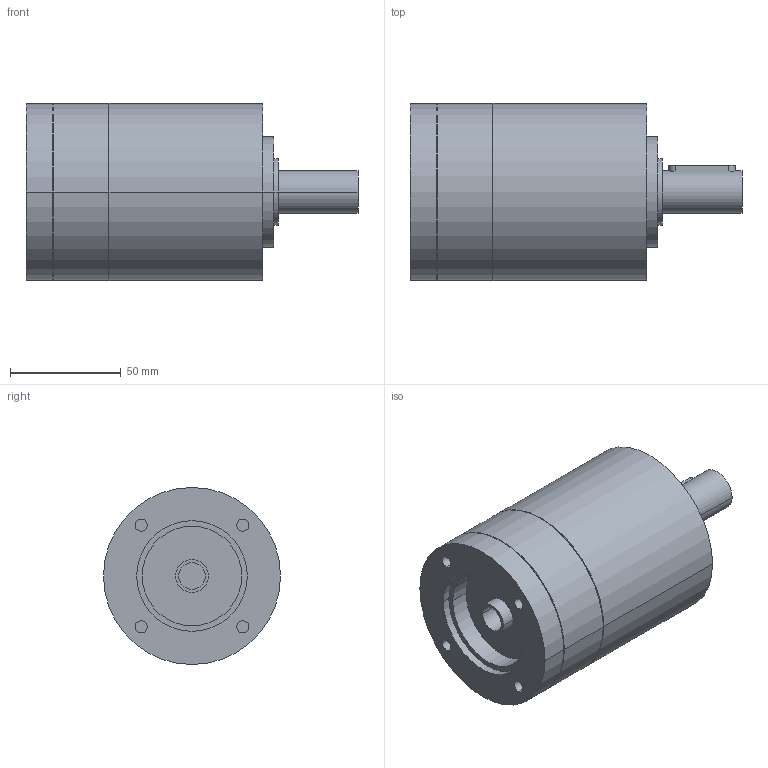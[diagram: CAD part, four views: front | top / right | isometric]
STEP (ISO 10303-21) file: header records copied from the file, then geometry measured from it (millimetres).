
FILE_DESCRIPTION(('CoCreate Modeling STEP Export'),'2;1');
FILE_NAME('GPR100_ig-3-4-5-6_19_B14_12.7_P10.stp','2014-08-26T10:06:51',(''),(''),'CoCreate Modeling STEP processor for AP214 (Solid Model)','CoCreate Modeling 16.00C 25-Feb-2009 (C) Parametric Technology GmbH','');
FILE_SCHEMA(('AUTOMOTIVE_DESIGN { 1 0 10303 214 1 1 1 1 }'));
Length unit declared in the file: millimetre
Products named in the file (2): GPR100_ig-3-4-5-6_19_B14_12.7_P10
Assembly tree (1 placements, depth 2):
  GPR100_ig-3-4-5-6_19_B14_12.7_P10
    GPR100_ig-3-4-5-6_19_B14_12.7_P10
Bounding box: 150 x 80 x 80 mm (x, y, z)
Volume: 533895.1 mm3; surface area: 46172.5 mm2
Topology: 1 solids, 1 shells, 80 faces, 201 edges, 143 vertices
Faces by surface type: cylinder 48, plane 26, cone 6
Entity records: 2026 total; most frequent: ORIENTED_EDGE 398, CARTESIAN_POINT 369, DIRECTION 264, EDGE_CURVE 199, VERTEX_POINT 143, AXIS2_PLACEMENT_3D 102, EDGE_LOOP 102, FACE_OUTER_BOUND 80
